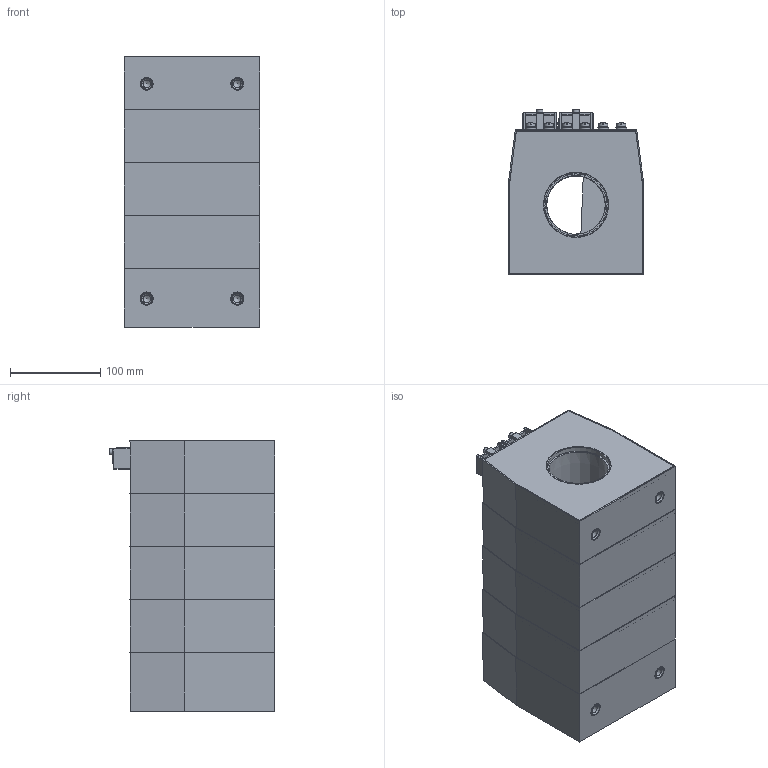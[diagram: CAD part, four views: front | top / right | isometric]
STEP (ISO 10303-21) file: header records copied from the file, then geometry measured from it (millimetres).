
FILE_DESCRIPTION(('STEP AP203'), '1');
FILE_NAME('ÒØÏ-ÍÒÇ-0,66-85À (65 ìì, 5-é ãàáàðèò)', '2025-08-27T09:42:29', ('UNSPECIFIED'), ('UNSPECIFIED'), 'ASCON STEP Converter 1.3', 'ASCON Math Kernel', '');
FILE_SCHEMA(('CONFIG_CONTROL_DESIGN'));
Length unit declared in the file: millimetre
Assembly tree (45 placements, depth 2):
  (unnamed)
    (unnamed)
    (unnamed)  x3
    (unnamed)
    (unnamed)  x5
    (unnamed)  x4
    (unnamed)  x2
    (unnamed)  x6
    (unnamed)  x2
    (unnamed)  x6
    (unnamed)  x6
    (unnamed)  x6
    (unnamed)  x2
    (unnamed)
Bounding box: 150 x 182.93 x 299 mm (x, y, z)
Volume: 967705.7 mm3; surface area: 662508 mm2
Topology: 45 solids, 45 shells, 746 faces, 1693 edges, 1065 vertices
Faces by surface type: plane 417, cylinder 206, cone 87, torus 20, bspline 16
Full cylindrical faces by diameter (mm): 3.244 x2, 3.95 x2, 4 x6, 4.5 x2, 4.8 x6, 4.92 x6, 6 x22, 6.4 x6, 7 x2, 7.1 x4, 8 x2, 8.376 x4, 10 x12, 10.1 x6, 12 x12, 14 x8, 17 x4, 65 x1, 65.05 x1, 68.599 x10, 68.6 x1, 71 x1
Entity records: 14216 total; most frequent: CARTESIAN_POINT 2814, DIRECTION 1578, ORIENTED_EDGE 1390, EDGE_CURVE 695, AXIS2_PLACEMENT_3D 570, VERTEX_POINT 488, EDGE_LOOP 461, LINE 438
